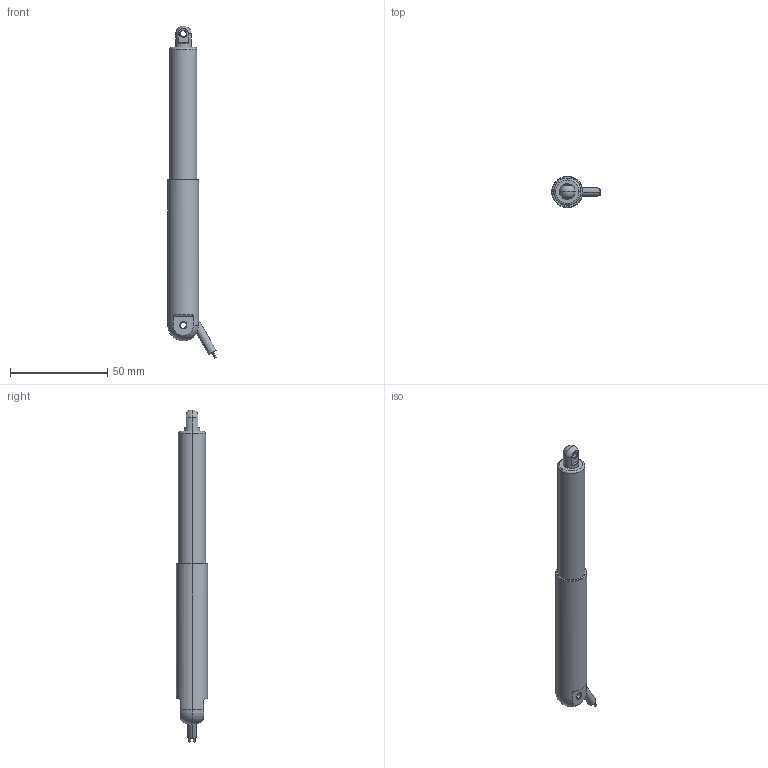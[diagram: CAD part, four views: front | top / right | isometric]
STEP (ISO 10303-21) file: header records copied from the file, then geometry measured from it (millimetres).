
FILE_DESCRIPTION((''),'2;1');
FILE_NAME('ANT16-50','2017-12-28T',('Aklek'),(''),'PRO/ENGINEER BY PARAMETRIC TECHNOLOGY CORPORATION, 2010100','PRO/ENGINEER BY PARAMETRIC TECHNOLOGY CORPORATION, 2010100','');
FILE_SCHEMA(('CONFIG_CONTROL_DESIGN'));
Length unit declared in the file: millimetre
Products named in the file (1): ANT16-50
Bounding box: 24.93 x 16 x 170.83 mm (x, y, z)
Volume: 26891.2 mm3; surface area: 7915.7 mm2
Topology: 1 solids, 1 shells, 49 faces, 118 edges, 71 vertices
Faces by surface type: cylinder 20, plane 13, cone 10, sphere 4, torus 2
Entity records: 1539 total; most frequent: CARTESIAN_POINT 343, DIRECTION 260, ORIENTED_EDGE 228, EDGE_CURVE 114, AXIS2_PLACEMENT_3D 109, VERTEX_POINT 71, CIRCLE 60, EDGE_LOOP 57
